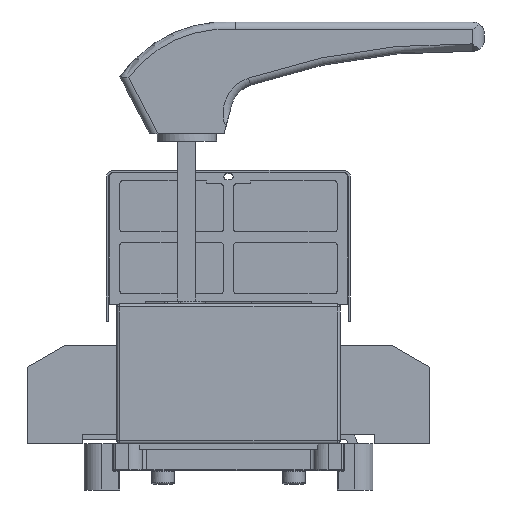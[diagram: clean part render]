
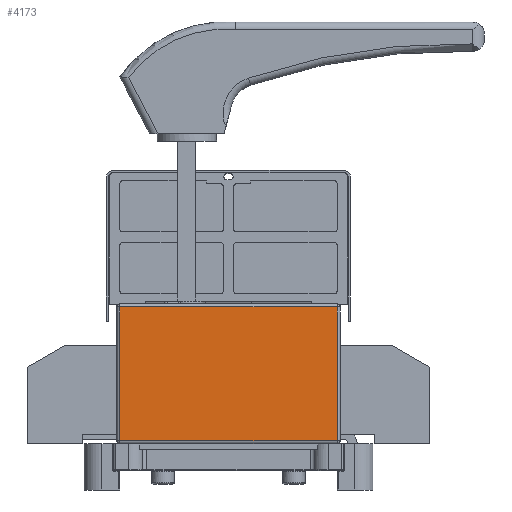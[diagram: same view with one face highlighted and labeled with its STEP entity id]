
A CAD part, left-side view. The second image highlights one B-rep face of the part: STEP entity #4173.
In plain terms, the highlighted planar face has unit normal (-1, 0, 0).
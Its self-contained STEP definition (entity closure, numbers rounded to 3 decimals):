
#4173=ADVANCED_FACE('',(#6807),#5251,.F.);
#5251=PLANE('',#34843);
#6807=FACE_OUTER_BOUND('',#8790,.T.);
#8790=EDGE_LOOP('',(#16903,#16904,#16905,#16906));
#16903=ORIENTED_EDGE('',*,*,#25510,.T.);
#16904=ORIENTED_EDGE('',*,*,#25492,.T.);
#16905=ORIENTED_EDGE('',*,*,#25503,.T.);
#16906=ORIENTED_EDGE('',*,*,#25481,.T.);
#21053=VERTEX_POINT('',#56185);
#21057=VERTEX_POINT('',#56196);
#21062=VERTEX_POINT('',#56213);
#21063=VERTEX_POINT('',#56217);
#25481=EDGE_CURVE('',#21057,#21053,#28743,.T.);
#25492=EDGE_CURVE('',#21063,#21062,#28748,.T.);
#25503=EDGE_CURVE('',#21062,#21057,#28751,.T.);
#25510=EDGE_CURVE('',#21053,#21063,#28758,.T.);
#28743=LINE('',#56199,#31947);
#28748=LINE('',#56220,#31952);
#28751=LINE('',#56243,#31955);
#28758=LINE('',#56253,#31962);
#31947=VECTOR('',#43479,1.);
#31952=VECTOR('',#43504,1.);
#31955=VECTOR('',#43533,1.);
#31962=VECTOR('',#43546,1.);
#34843=AXIS2_PLACEMENT_3D('',#56256,#43551,#43552);
#43479=DIRECTION('',(0.,1.,0.));
#43504=DIRECTION('',(0.,-1.,0.));
#43533=DIRECTION('',(0.,0.,1.));
#43546=DIRECTION('',(0.,0.,-1.));
#43551=DIRECTION('',(1.,0.,0.));
#43552=DIRECTION('',(0.,1.,0.));
#56185=CARTESIAN_POINT('',(-150.,73.,92.));
#56196=CARTESIAN_POINT('',(-150.,-73.,92.));
#56199=CARTESIAN_POINT('',(-150.,73.,92.));
#56213=CARTESIAN_POINT('',(-150.,-73.,2.));
#56217=CARTESIAN_POINT('',(-150.,73.,2.));
#56220=CARTESIAN_POINT('',(-150.,75.,2.));
#56243=CARTESIAN_POINT('',(-150.,-73.,94.));
#56253=CARTESIAN_POINT('',(-150.,73.,94.));
#56256=CARTESIAN_POINT('',(-150.,75.,94.));
